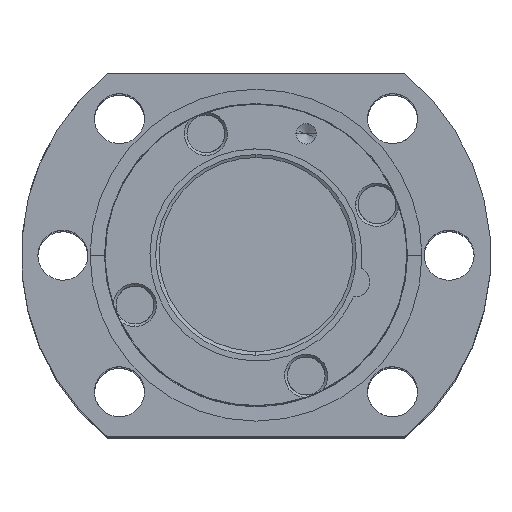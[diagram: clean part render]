
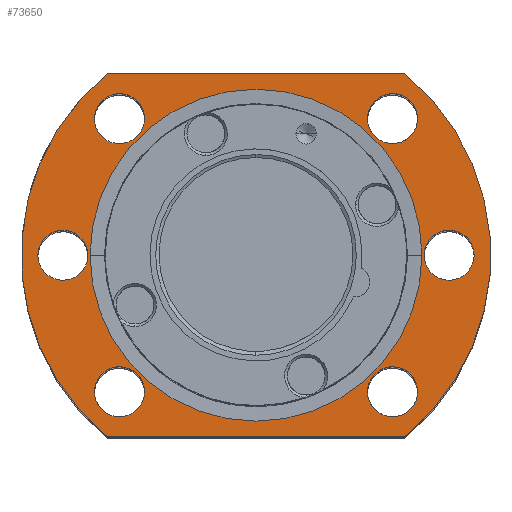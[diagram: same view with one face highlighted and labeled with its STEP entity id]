
A CAD part, top view. The second image highlights one B-rep face of the part: STEP entity #73650.
In plain terms, the highlighted planar face has unit normal (0, 0, 1).
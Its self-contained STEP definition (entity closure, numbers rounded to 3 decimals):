
#46170=CARTESIAN_POINT('',(25.5,0.,181.125));
#46180=DIRECTION('',(0.,0.,-1.));
#46190=DIRECTION('',(-1.,0.,0.));
#46200=AXIS2_PLACEMENT_3D('',#46170,#46180,#46190);
#46210=CIRCLE('',#46200,3.3);
#46220=CARTESIAN_POINT('',(24.237,3.049,181.125));
#46230=VERTEX_POINT('',#46220);
#46240=CARTESIAN_POINT('',(28.8,0.,181.125));
#46250=VERTEX_POINT('',#46240);
#46260=EDGE_CURVE('',#46230,#46250,#46210,.T.);
#46530=CARTESIAN_POINT('',(22.2,0.,181.125));
#46540=VERTEX_POINT('',#46530);
#46570=EDGE_CURVE('',#46540,#46230,#46210,.T.);
#48680=CARTESIAN_POINT('',(-22.2,0.,181.125));
#48690=VERTEX_POINT('',#48680);
#48740=CARTESIAN_POINT('',(-25.5,0.,181.125));
#48750=DIRECTION('',(0.,0.,-1.));
#48760=DIRECTION('',(-1.,0.,0.));
#48770=AXIS2_PLACEMENT_3D('',#48740,#48750,#48760);
#48780=CIRCLE('',#48770,3.3);
#48790=CARTESIAN_POINT('',(-24.237,-3.049,181.125))
;
#48800=VERTEX_POINT('',#48790);
#48810=EDGE_CURVE('',#48690,#48800,#48780,.T.);
#48830=CARTESIAN_POINT('',(-28.8,0.,181.125));
#48840=VERTEX_POINT('',#48830);
#48850=EDGE_CURVE('',#48800,#48840,#48780,.T.);
#49720=CARTESIAN_POINT('',(-18.031,-18.031,181.125));
#49730=DIRECTION('',(0.,0.,-1.));
#49740=DIRECTION('',(-1.,0.,0.));
#49750=AXIS2_PLACEMENT_3D('',#49720,#49730,#49740);
#49760=CIRCLE('',#49750,3.3);
#49770=CARTESIAN_POINT('',(-19.294,-14.982,181.125))
;
#49780=VERTEX_POINT('',#49770);
#49790=CARTESIAN_POINT('',(-14.731,-18.031,181.125));
#49800=VERTEX_POINT('',#49790);
#49810=EDGE_CURVE('',#49780,#49800,#49760,.T.);
#50040=CARTESIAN_POINT('',(-21.331,-18.031,181.125));
#50050=VERTEX_POINT('',#50040);
#50080=EDGE_CURVE('',#50050,#49780,#49760,.T.);
#56470=CARTESIAN_POINT('',(18.031,18.031,181.125));
#56480=DIRECTION('',(0.,0.,-1.));
#56490=DIRECTION('',(-1.,0.,0.));
#56500=AXIS2_PLACEMENT_3D('',#56470,#56480,#56490);
#56510=CIRCLE('',#56500,3.3);
#56520=CARTESIAN_POINT('',(16.768,21.08,181.125));
#56530=VERTEX_POINT('',#56520);
#56540=CARTESIAN_POINT('',(21.331,18.031,181.125));
#56550=VERTEX_POINT('',#56540);
#56560=EDGE_CURVE('',#56530,#56550,#56510,.T.);
#56790=CARTESIAN_POINT('',(14.731,18.031,181.125));
#56800=VERTEX_POINT('',#56790);
#56830=EDGE_CURVE('',#56800,#56530,#56510,.T.);
#57230=CARTESIAN_POINT('',(21.331,-18.031,181.125));
#57240=VERTEX_POINT('',#57230);
#57290=CARTESIAN_POINT('',(18.031,-18.031,181.125));
#57300=DIRECTION('',(0.,0.,-1.));
#57310=DIRECTION('',(-1.,0.,0.));
#57320=AXIS2_PLACEMENT_3D('',#57290,#57300,#57310);
#57330=CIRCLE('',#57320,3.3);
#57340=CARTESIAN_POINT('',(14.731,-18.031,181.125));
#57350=VERTEX_POINT('',#57340);
#57360=EDGE_CURVE('',#57240,#57350,#57330,.T.);
#58300=CARTESIAN_POINT('',(19.621,-24.,181.125));
#58310=VERTEX_POINT('',#58300);
#58460=CARTESIAN_POINT('',(-19.621,-24.,181.125));
#58470=VERTEX_POINT('',#58460);
#58500=CARTESIAN_POINT('',(0.,-24.,181.125));
#58510=DIRECTION('',(-1.,0.,-0.));
#58520=VECTOR('',#58510,1.);
#58530=LINE('',#58500,#58520);
#58540=EDGE_CURVE('',#58310,#58470,#58530,.T.);
#59140=CARTESIAN_POINT('',(-19.621,24.,181.125));
#59150=VERTEX_POINT('',#59140);
#59180=CARTESIAN_POINT('',(0.,0.,
181.125));
#59190=DIRECTION('',(0.,0.,-1.));
#59200=DIRECTION('',(-1.,0.,0.));
#59210=AXIS2_PLACEMENT_3D('',#59180,#59190,#59200);
#59220=CIRCLE('',#59210,31.);
#59230=EDGE_CURVE('',#58470,#59150,#59220,.T.);
#59640=CARTESIAN_POINT('',(19.621,24.,181.125));
#59650=VERTEX_POINT('',#59640);
#59680=CARTESIAN_POINT('',(0.,24.,181.125));
#59690=DIRECTION('',(-1.,-0.,-0.));
#59700=VECTOR('',#59690,1.);
#59710=LINE('',#59680,#59700);
#59720=EDGE_CURVE('',#59650,#59150,#59710,.T.);
#59970=CARTESIAN_POINT('',(0.,0.,
181.125));
#59980=DIRECTION('',(0.,0.,-1.));
#59990=DIRECTION('',(-1.,0.,0.));
#60000=AXIS2_PLACEMENT_3D('',#59970,#59980,#59990);
#60010=CIRCLE('',#60000,31.);
#60020=EDGE_CURVE('',#59650,#58310,#60010,.T.);
#60240=CARTESIAN_POINT('',(-21.331,18.031,181.125));
#60250=VERTEX_POINT('',#60240);
#60300=CARTESIAN_POINT('',(-18.031,18.031,181.125));
#60310=DIRECTION('',(0.,0.,-1.));
#60320=DIRECTION('',(-1.,0.,0.));
#60330=AXIS2_PLACEMENT_3D('',#60300,#60310,#60320);
#60340=CIRCLE('',#60330,3.3);
#60350=CARTESIAN_POINT('',(-19.294,21.08,181.125));
#60360=VERTEX_POINT('',#60350);
#60370=EDGE_CURVE('',#60250,#60360,#60340,.T.);
#60390=CARTESIAN_POINT('',(-14.731,18.031,181.125));
#60400=VERTEX_POINT('',#60390);
#60410=EDGE_CURVE('',#60360,#60400,#60340,.T.);
#72720=CARTESIAN_POINT('',(21.913,0.,181.125
));
#72730=VERTEX_POINT('',#72720);
#72890=CARTESIAN_POINT('',(-21.913,0.,181.125
));
#72900=VERTEX_POINT('',#72890);
#72930=CARTESIAN_POINT('',(0.,0.,
181.125));
#72940=DIRECTION('',(0.,0.,1.));
#72950=DIRECTION('',(1.,0.,0.));
#72960=AXIS2_PLACEMENT_3D('',#72930,#72940,#72950);
#72970=CIRCLE('',#72960,21.913);
#72980=EDGE_CURVE('',#72730,#72900,#72970,.T.);
#73100=CARTESIAN_POINT('',(58.773,-28.8,181.125));
#73110=DIRECTION('',(0.,0.,-1.));
#73120=DIRECTION('',(-1.,0.,-0.));
#73130=AXIS2_PLACEMENT_3D('',#73100,#73110,#73120);
#73140=PLANE('',#73130);
#73150=ORIENTED_EDGE('',*,*,#59230,.F.);
#73160=ORIENTED_EDGE('',*,*,#59720,.T.);
#73170=ORIENTED_EDGE('',*,*,#60020,.F.);
#73180=ORIENTED_EDGE('',*,*,#58540,.F.);
#73190=EDGE_LOOP('',(#73180,#73170,#73160,#73150));
#73200=FACE_OUTER_BOUND('',#73190,.T.);
#73210=EDGE_CURVE('',#48840,#48690,#48780,.T.);
#73220=ORIENTED_EDGE('',*,*,#73210,.T.);
#73230=ORIENTED_EDGE('',*,*,#48850,.T.);
#73240=ORIENTED_EDGE('',*,*,#48810,.T.);
#73250=EDGE_LOOP('',(#73240,#73230,#73220));
#73260=FACE_BOUND('',#73250,.T.);
#73270=EDGE_CURVE('',#49800,#50050,#49760,.T.);
#73280=ORIENTED_EDGE('',*,*,#73270,.T.);
#73290=ORIENTED_EDGE('',*,*,#49810,.T.);
#73300=ORIENTED_EDGE('',*,*,#50080,.T.);
#73310=EDGE_LOOP('',(#73300,#73290,#73280));
#73320=FACE_BOUND('',#73310,.T.);
#73330=EDGE_CURVE('',#46250,#46540,#46210,.T.);
#73340=ORIENTED_EDGE('',*,*,#73330,.T.);
#73350=ORIENTED_EDGE('',*,*,#46260,.T.);
#73360=ORIENTED_EDGE('',*,*,#46570,.T.);
#73370=EDGE_LOOP('',(#73360,#73350,#73340));
#73380=FACE_BOUND('',#73370,.T.);
#73390=ORIENTED_EDGE('',*,*,#57360,.T.);
#73400=CARTESIAN_POINT('',(16.768,-14.982,181.125));
#73410=VERTEX_POINT('',#73400);
#73420=EDGE_CURVE('',#73410,#57240,#57330,.T.);
#73430=ORIENTED_EDGE('',*,*,#73420,.T.);
#73440=EDGE_CURVE('',#57350,#73410,#57330,.T.);
#73450=ORIENTED_EDGE('',*,*,#73440,.T.);
#73460=EDGE_LOOP('',(#73450,#73430,#73390));
#73470=FACE_BOUND('',#73460,.T.);
#73480=EDGE_CURVE('',#56550,#56800,#56510,.T.);
#73490=ORIENTED_EDGE('',*,*,#73480,.T.);
#73500=ORIENTED_EDGE('',*,*,#56560,.T.);
#73510=ORIENTED_EDGE('',*,*,#56830,.T.);
#73520=EDGE_LOOP('',(#73510,#73500,#73490));
#73530=FACE_BOUND('',#73520,.T.);
#73540=EDGE_CURVE('',#60400,#60250,#60340,.T.);
#73550=ORIENTED_EDGE('',*,*,#73540,.T.);
#73560=ORIENTED_EDGE('',*,*,#60410,.T.);
#73570=ORIENTED_EDGE('',*,*,#60370,.T.);
#73580=EDGE_LOOP('',(#73570,#73560,#73550));
#73590=FACE_BOUND('',#73580,.T.);
#73600=EDGE_CURVE('',#72900,#72730,#72970,.T.);
#73610=ORIENTED_EDGE('',*,*,#73600,.F.);
#73620=ORIENTED_EDGE('',*,*,#72980,.F.);
#73630=EDGE_LOOP('',(#73620,#73610));
#73640=FACE_BOUND('',#73630,.T.);
#73650=ADVANCED_FACE('',(#73200,#73260,#73320,#73380,#73470,#73530,
#73590,#73640),#73140,.F.);
